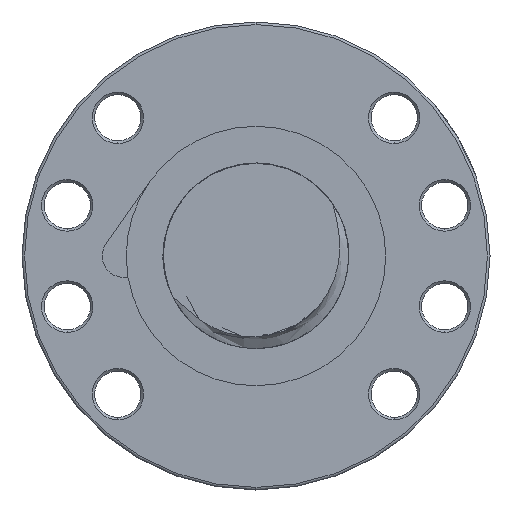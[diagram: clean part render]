
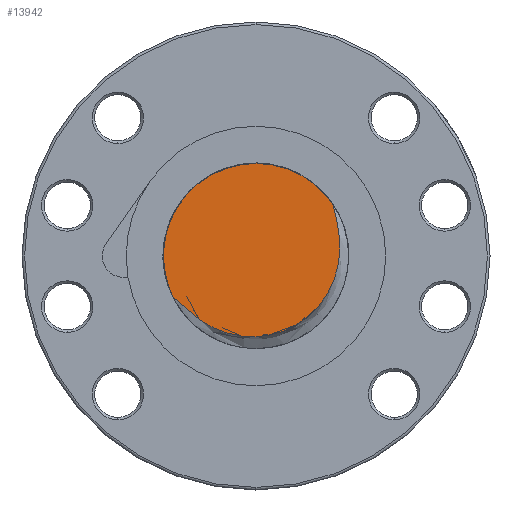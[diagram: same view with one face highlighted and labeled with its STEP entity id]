
A CAD part, left-side view. The second image highlights one B-rep face of the part: STEP entity #13942.
In plain terms, the highlighted planar face has unit normal (-1, 0, 0).
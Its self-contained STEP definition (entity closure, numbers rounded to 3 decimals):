
#3513 = CARTESIAN_POINT ( 'NONE',  ( -148., 0., 18. ) ) ;
#3514 = CARTESIAN_POINT ( 'NONE',  ( -148., 16.098, -8.053 ) ) ;
#3515 = DIRECTION ( 'NONE',  ( 0., 1., 0. ) ) ;
#3516 = DIRECTION ( 'NONE',  ( 1., 0., 0. ) ) ;
#3517 = AXIS2_PLACEMENT_3D ( 'NONE', #3524, #3516, #3515 ) ;
#3518 = CIRCLE ( 'NONE', #3517, 18. ) ;
#3524 = CARTESIAN_POINT ( 'NONE',  ( -148., 0., 0. ) ) ;
#12910 = EDGE_CURVE ( 'NONE', #15245, #14109, #15716, .T. ) ;
#13942 = ADVANCED_FACE ( 'NONE', ( #15965 ), #15962, .F. ) ;
#13943 = EDGE_LOOP ( 'NONE', ( #13944, #13945, #13947 ) ) ;
#13944 = ORIENTED_EDGE ( 'NONE', *, *, #15243, .F. ) ;
#13945 = ORIENTED_EDGE ( 'NONE', *, *, #13946, .T. ) ;
#13946 = EDGE_CURVE ( 'NONE', #15244, #14109, #15951, .T. ) ;
#13947 = ORIENTED_EDGE ( 'NONE', *, *, #12910, .F. ) ;
#14109 = VERTEX_POINT ( 'NONE', #20778 ) ;
#15243 = EDGE_CURVE ( 'NONE', #15244, #15245, #3518, .T. ) ;
#15244 = VERTEX_POINT ( 'NONE', #3514 ) ;
#15245 = VERTEX_POINT ( 'NONE', #3513 ) ;
#15538 = CARTESIAN_POINT ( 'NONE',  ( -148., 15.071, -8.979 ) ) ;
#15539 = CARTESIAN_POINT ( 'NONE',  ( -148., 15.27, -8.787 ) ) ;
#15540 = CARTESIAN_POINT ( 'NONE',  ( -148., 14.071, -9.935 ) ) ;
#15541 = CARTESIAN_POINT ( 'NONE',  ( -148., 14.471, -9.553 ) ) ;
#15564 = DIRECTION ( 'NONE',  ( 0., 1., 0. ) ) ;
#15565 = DIRECTION ( 'NONE',  ( 1., 0., 0. ) ) ;
#15566 = CARTESIAN_POINT ( 'NONE',  ( -148., 0., 0. ) ) ;
#15567 = AXIS2_PLACEMENT_3D ( 'NONE', #15566, #15565, #15564 ) ;
#15716 = CIRCLE ( 'NONE', #15567, 18. ) ;
#15948 = CARTESIAN_POINT ( 'NONE',  ( -148., 15.675, -8.41 ) ) ;
#15949 = CARTESIAN_POINT ( 'NONE',  ( -148., 15.88, -8.225 ) ) ;
#15950 = CARTESIAN_POINT ( 'NONE',  ( -148., 16.098, -8.053 ) ) ;
#15951 = B_SPLINE_CURVE_WITH_KNOTS ( 'NONE', 3,
 ( #15950, #15949, #15948, #15539, #15538, #15541, #15540, #16276, #16275, #16274, #16273, #16272, #16271, #16026, #16025, #16024, #16023, #16022, #16285, #16284, #16283, #16282, #16281, #16280, #16279, #16278, #16277, #16097, #16096, #16095, #16094, #16093, #16092, #16091, #16090, #16089, #16088, #16087, #16086, #16213, #16212, #16211, #16210, #16209, #16208, #16207, #16206, #16205, #16204, #16203, #16202, #16201, #16200, #16199 ),
 .UNSPECIFIED., .F., .F.,
 ( 4, 2, 2, 2, 2, 2, 2, 2, 2, 2, 2, 2, 2, 2, 2, 2, 2, 2, 2, 2, 2, 2, 2, 2, 2, 2, 4 ),
 ( 0.014, 0.015, 0.016, 0.017, 0.021, 0.022, 0.024, 0.027, 0.029, 0.03, 0.034, 0.035, 0.037, 0.04, 0.042, 0.044, 0.047, 0.05, 0.052, 0.053, 0.057, 0.058, 0.06, 0.063, 0.065, 0.066, 0.067 ),
 .UNSPECIFIED. ) ;
#15955 = DIRECTION ( 'NONE',  ( 0., 0., -1. ) ) ;
#15956 = DIRECTION ( 'NONE',  ( 1., 0., 0. ) ) ;
#15957 = CARTESIAN_POINT ( 'NONE',  ( -148., 0., 0. ) ) ;
#15962 = PLANE ( 'NONE',  #15964 ) ;
#15964 = AXIS2_PLACEMENT_3D ( 'NONE', #15957, #15956, #15955 ) ;
#15965 = FACE_OUTER_BOUND ( 'NONE', #13943, .T. ) ;
#16022 = CARTESIAN_POINT ( 'NONE',  ( -148., 2.926, -15.56 ) ) ;
#16023 = CARTESIAN_POINT ( 'NONE',  ( -148., 4.022, -15.382 ) ) ;
#16024 = CARTESIAN_POINT ( 'NONE',  ( -148., 4.563, -15.268 ) ) ;
#16025 = CARTESIAN_POINT ( 'NONE',  ( -148., 6.162, -14.851 ) ) ;
#16026 = CARTESIAN_POINT ( 'NONE',  ( -148., 7.199, -14.474 ) ) ;
#16086 = CARTESIAN_POINT ( 'NONE',  ( -148., -15.49, -3.719 ) ) ;
#16087 = CARTESIAN_POINT ( 'NONE',  ( -148., -15.315, -4.252 ) ) ;
#16088 = CARTESIAN_POINT ( 'NONE',  ( -148., -14.92, -5.29 ) ) ;
#16089 = CARTESIAN_POINT ( 'NONE',  ( -148., -14.699, -5.796 ) ) ;
#16090 = CARTESIAN_POINT ( 'NONE',  ( -148., -13.965, -7.279 ) ) ;
#16091 = CARTESIAN_POINT ( 'NONE',  ( -148., -13.382, -8.217 ) ) ;
#16092 = CARTESIAN_POINT ( 'NONE',  ( -148., -12.022, -9.99 ) ) ;
#16093 = CARTESIAN_POINT ( 'NONE',  ( -148., -11.267, -10.797 ) ) ;
#16094 = CARTESIAN_POINT ( 'NONE',  ( -148., -10.026, -11.889 ) ) ;
#16095 = CARTESIAN_POINT ( 'NONE',  ( -148., -9.593, -12.233 ) ) ;
#16096 = CARTESIAN_POINT ( 'NONE',  ( -148., -8.69, -12.879 ) ) ;
#16097 = CARTESIAN_POINT ( 'NONE',  ( -148., -8.218, -13.182 ) ) ;
#16199 = CARTESIAN_POINT ( 'NONE',  ( -148., -15.025, 9.912 ) ) ;
#16200 = CARTESIAN_POINT ( 'NONE',  ( -148., -15.065, 9.637 ) ) ;
#16201 = CARTESIAN_POINT ( 'NONE',  ( -148., -15.124, 9.367 ) ) ;
#16202 = CARTESIAN_POINT ( 'NONE',  ( -148., -15.248, 8.827 ) ) ;
#16203 = CARTESIAN_POINT ( 'NONE',  ( -148., -15.314, 8.558 ) ) ;
#16204 = CARTESIAN_POINT ( 'NONE',  ( -148., -15.512, 7.75 ) ) ;
#16205 = CARTESIAN_POINT ( 'NONE',  ( -148., -15.642, 7.212 ) ) ;
#16206 = CARTESIAN_POINT ( 'NONE',  ( -148., -15.987, 5.59 ) ) ;
#16207 = CARTESIAN_POINT ( 'NONE',  ( -148., -16.159, 4.5 ) ) ;
#16208 = CARTESIAN_POINT ( 'NONE',  ( -148., -16.288, 2.847 ) ) ;
#16209 = CARTESIAN_POINT ( 'NONE',  ( -148., -16.31, 2.293 ) ) ;
#16210 = CARTESIAN_POINT ( 'NONE',  ( -148., -16.306, 1.178 ) ) ;
#16211 = CARTESIAN_POINT ( 'NONE',  ( -148., -16.281, 0.622 ) ) ;
#16212 = CARTESIAN_POINT ( 'NONE',  ( -148., -16.131, -1.031 ) ) ;
#16213 = CARTESIAN_POINT ( 'NONE',  ( -148., -15.935, -2.116 ) ) ;
#16271 = CARTESIAN_POINT ( 'NONE',  ( -148., 8.712, -13.77 ) ) ;
#16272 = CARTESIAN_POINT ( 'NONE',  ( -148., 9.207, -13.512 ) ) ;
#16273 = CARTESIAN_POINT ( 'NONE',  ( -148., 10.165, -12.962 ) ) ;
#16274 = CARTESIAN_POINT ( 'NONE',  ( -148., 10.631, -12.669 ) ) ;
#16275 = CARTESIAN_POINT ( 'NONE',  ( -148., 11.99, -11.737 ) ) ;
#16276 = CARTESIAN_POINT ( 'NONE',  ( -148., 12.843, -11.044 ) ) ;
#16277 = CARTESIAN_POINT ( 'NONE',  ( -148., -6.775, -14.01 ) ) ;
#16278 = CARTESIAN_POINT ( 'NONE',  ( -148., -5.77, -14.462 ) ) ;
#16279 = CARTESIAN_POINT ( 'NONE',  ( -148., -4.2, -14.992 ) ) ;
#16280 = CARTESIAN_POINT ( 'NONE',  ( -148., -3.664, -15.143 ) ) ;
#16281 = CARTESIAN_POINT ( 'NONE',  ( -148., -2.576, -15.394 ) ) ;
#16282 = CARTESIAN_POINT ( 'NONE',  ( -148., -2.031, -15.49 ) ) ;
#16283 = CARTESIAN_POINT ( 'NONE',  ( -148., -0.389, -15.699 ) ) ;
#16284 = CARTESIAN_POINT ( 'NONE',  ( -148., 0.711, -15.731 ) ) ;
#16285 = CARTESIAN_POINT ( 'NONE',  ( -148., 2.369, -15.623 ) ) ;
#20778 = CARTESIAN_POINT ( 'NONE',  ( -148., -15.025, 9.912 ) ) ;
